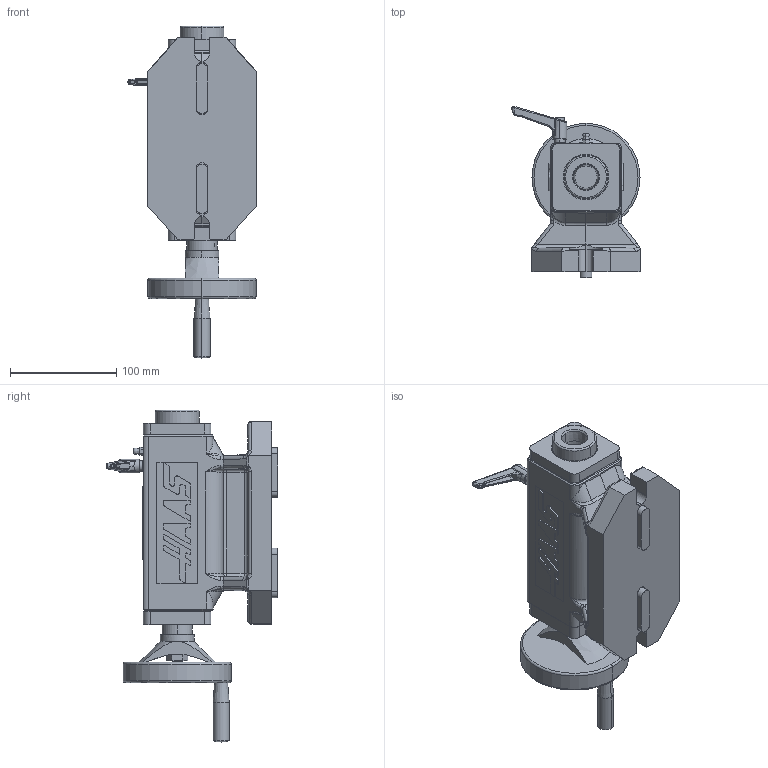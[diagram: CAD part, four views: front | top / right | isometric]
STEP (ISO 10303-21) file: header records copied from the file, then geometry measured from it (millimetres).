
FILE_DESCRIPTION (( 'STEP AP214' ), '1' );
FILE_NAME ('HTS3.5_STEP_2020_03.STEP', '2020-03-31T18:49:14', ( '' ), ( '' ), 'SwSTEP 2.0', 'SolidWorks 2019', '' );
FILE_SCHEMA (( 'AUTOMOTIVE_DESIGN' ));
Length unit declared in the file: inch
Products named in the file (1): HTS3.5_STEP_2020_03
Bounding box: 120.4 x 161.19 x 312.11 mm (x, y, z)
Volume: 1538958.6 mm3; surface area: 168900.1 mm2
Topology: 1 solids, 2 shells, 722 faces, 1932 edges, 1219 vertices
Faces by surface type: plane 270, cylinder 269, bspline 100, cone 61, sphere 16, torus 6
Entity records: 34276 total; most frequent: CARTESIAN_POINT 12773, ORIENTED_EDGE 3856, DIRECTION 3305, EDGE_CURVE 1928, VERTEX_POINT 1219, AXIS2_PLACEMENT_3D 1187, LINE 931, VECTOR 931
